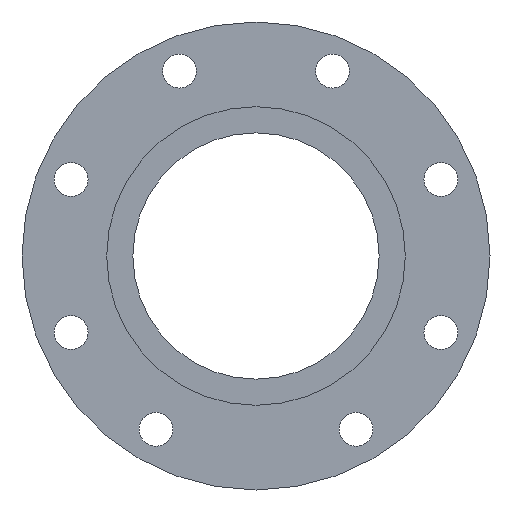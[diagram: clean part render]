
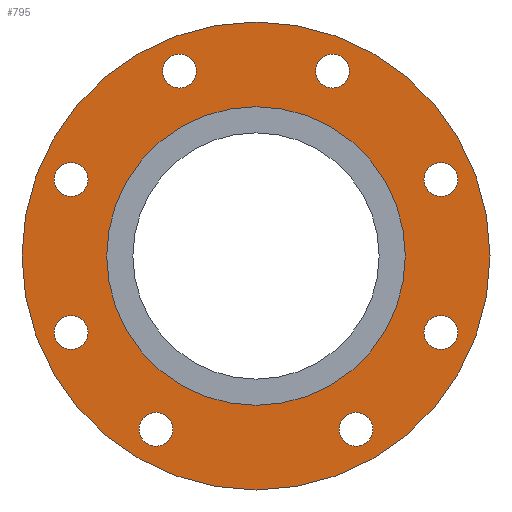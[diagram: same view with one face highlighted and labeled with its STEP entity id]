
A CAD part, left-side view. The second image highlights one B-rep face of the part: STEP entity #795.
In plain terms, the highlighted planar face has unit normal (-1, 0, 0).
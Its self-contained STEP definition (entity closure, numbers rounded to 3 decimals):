
#377=CARTESIAN_POINT('',(-26.0,0.0,-152.0));
#378=VERTEX_POINT('',#377);
#379=CARTESIAN_POINT('',(-26.0,0.0,0.0));
#380=DIRECTION('',(1.0,0.0,0.0));
#381=DIRECTION('',(0.0,0.0,-1.0));
#382=AXIS2_PLACEMENT_3D('',#379,#380,#381);
#383=CIRCLE('',#382,152.0);
#384=EDGE_CURVE('',#378,#378,#383,.T.);
#418=CARTESIAN_POINT('',(-26.,65.,-101.583));
#419=VERTEX_POINT('',#418);
#420=CARTESIAN_POINT('',(-26.,65.,-112.583));
#421=DIRECTION('',(1.0,0.0,0.0));
#422=DIRECTION('',(0.0,0.0,-1.0));
#423=AXIS2_PLACEMENT_3D('',#420,#421,#422);
#424=CIRCLE('',#423,11.0);
#425=EDGE_CURVE('',#419,#419,#424,.T.);
#459=CARTESIAN_POINT('',(-26.,120.104,-38.749));
#460=VERTEX_POINT('',#459);
#461=CARTESIAN_POINT('',(-26.,120.104,-49.749));
#462=DIRECTION('',(1.0,0.0,0.0));
#463=DIRECTION('',(0.0,0.0,-1.0));
#464=AXIS2_PLACEMENT_3D('',#461,#462,#463);
#465=CIRCLE('',#464,11.0);
#466=EDGE_CURVE('',#460,#460,#465,.T.);
#500=CARTESIAN_POINT('',(-26.,-120.104,-38.749));
#501=VERTEX_POINT('',#500);
#502=CARTESIAN_POINT('',(-26.,-120.104,-49.749));
#503=DIRECTION('',(1.0,0.0,0.0));
#504=DIRECTION('',(0.0,0.0,-1.0));
#505=AXIS2_PLACEMENT_3D('',#502,#503,#504);
#506=CIRCLE('',#505,11.0);
#507=EDGE_CURVE('',#501,#501,#506,.T.);
#541=CARTESIAN_POINT('',(-26.,49.749,131.104));
#542=VERTEX_POINT('',#541);
#543=CARTESIAN_POINT('',(-26.,49.749,120.104));
#544=DIRECTION('',(1.0,0.0,0.0));
#545=DIRECTION('',(0.0,0.0,-1.0));
#546=AXIS2_PLACEMENT_3D('',#543,#544,#545);
#547=CIRCLE('',#546,11.0);
#548=EDGE_CURVE('',#542,#542,#547,.T.);
#582=CARTESIAN_POINT('',(-26.,-65.,-101.583));
#583=VERTEX_POINT('',#582);
#584=CARTESIAN_POINT('',(-26.,-65.,-112.583));
#585=DIRECTION('',(1.0,0.0,0.0));
#586=DIRECTION('',(0.0,0.0,-1.0));
#587=AXIS2_PLACEMENT_3D('',#584,#585,#586);
#588=CIRCLE('',#587,11.0);
#589=EDGE_CURVE('',#583,#583,#588,.T.);
#623=CARTESIAN_POINT('',(-26.,120.104,60.749));
#624=VERTEX_POINT('',#623);
#625=CARTESIAN_POINT('',(-26.,120.104,49.749));
#626=DIRECTION('',(1.0,0.0,0.0));
#627=DIRECTION('',(0.0,0.0,-1.0));
#628=AXIS2_PLACEMENT_3D('',#625,#626,#627);
#629=CIRCLE('',#628,11.0);
#630=EDGE_CURVE('',#624,#624,#629,.T.);
#664=CARTESIAN_POINT('',(-26.,-49.749,131.104));
#665=VERTEX_POINT('',#664);
#666=CARTESIAN_POINT('',(-26.,-49.749,120.104));
#667=DIRECTION('',(1.0,0.0,0.0));
#668=DIRECTION('',(0.0,0.0,-1.0));
#669=AXIS2_PLACEMENT_3D('',#666,#667,#668);
#670=CIRCLE('',#669,11.0);
#671=EDGE_CURVE('',#665,#665,#670,.T.);
#705=CARTESIAN_POINT('',(-26.,-120.104,60.749));
#706=VERTEX_POINT('',#705);
#707=CARTESIAN_POINT('',(-26.,-120.104,49.749));
#708=DIRECTION('',(1.0,0.0,0.0));
#709=DIRECTION('',(0.0,0.0,-1.0));
#710=AXIS2_PLACEMENT_3D('',#707,#708,#709);
#711=CIRCLE('',#710,11.0);
#712=EDGE_CURVE('',#706,#706,#711,.T.);
#745=CARTESIAN_POINT('',(-26.,0.0,-97.));
#746=VERTEX_POINT('',#745);
#747=CARTESIAN_POINT('',(-26.,0.0,0.0));
#748=DIRECTION('',(1.0,0.0,0.0));
#749=DIRECTION('',(0.0,0.0,-1.0));
#750=AXIS2_PLACEMENT_3D('',#747,#748,#749);
#751=CIRCLE('',#750,97.);
#752=EDGE_CURVE('',#746,#746,#751,.T.);
#760=CARTESIAN_POINT('',(-26.,0.0,-124.5));
#761=DIRECTION('',(-1.0,0.0,0.0));
#762=DIRECTION('',(0.0,0.0,1.0));
#763=AXIS2_PLACEMENT_3D('',#760,#761,#762);
#764=PLANE('',#763);
#765=ORIENTED_EDGE('',*,*,#384,.F.);
#766=EDGE_LOOP('',(#765));
#767=FACE_OUTER_BOUND('',#766,.T.);
#768=ORIENTED_EDGE('',*,*,#425,.T.);
#769=EDGE_LOOP('',(#768));
#770=FACE_BOUND('',#769,.T.);
#771=ORIENTED_EDGE('',*,*,#466,.T.);
#772=EDGE_LOOP('',(#771));
#773=FACE_BOUND('',#772,.T.);
#774=ORIENTED_EDGE('',*,*,#507,.T.);
#775=EDGE_LOOP('',(#774));
#776=FACE_BOUND('',#775,.T.);
#777=ORIENTED_EDGE('',*,*,#548,.T.);
#778=EDGE_LOOP('',(#777));
#779=FACE_BOUND('',#778,.T.);
#780=ORIENTED_EDGE('',*,*,#589,.T.);
#781=EDGE_LOOP('',(#780));
#782=FACE_BOUND('',#781,.T.);
#783=ORIENTED_EDGE('',*,*,#630,.T.);
#784=EDGE_LOOP('',(#783));
#785=FACE_BOUND('',#784,.T.);
#786=ORIENTED_EDGE('',*,*,#671,.T.);
#787=EDGE_LOOP('',(#786));
#788=FACE_BOUND('',#787,.T.);
#789=ORIENTED_EDGE('',*,*,#712,.T.);
#790=EDGE_LOOP('',(#789));
#791=FACE_BOUND('',#790,.T.);
#792=ORIENTED_EDGE('',*,*,#752,.T.);
#793=EDGE_LOOP('',(#792));
#794=FACE_BOUND('',#793,.T.);
#795=ADVANCED_FACE('',(#767,#770,#773,#776,#779,#782,#785,#788,#791,#794),#764,.T.);
